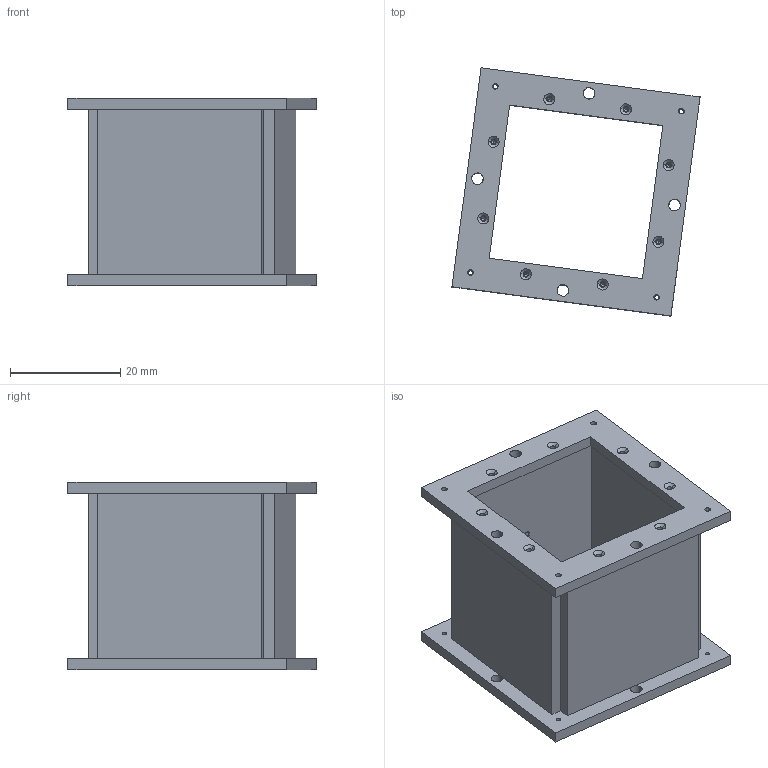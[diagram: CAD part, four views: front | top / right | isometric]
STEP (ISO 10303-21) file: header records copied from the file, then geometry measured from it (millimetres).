
FILE_DESCRIPTION (( 'STEP AP214' ), '1' );
FILE_NAME ('sez assieme cella.STEP', '2016-02-28T08:50:37', ( '' ), ( '' ), 'SwSTEP 2.0', 'SolidWorks 2012', '' );
FILE_SCHEMA (( 'AUTOMOTIVE_DESIGN' ));
Length unit declared in the file: millimetre
Products named in the file (4): sez assieme cella; G_2; G_2_pla; G11
Assembly tree (6 placements, depth 2):
  sez assieme cella
    G11  x4
    G_2_pla
    G_2
Bounding box: 44.93 x 44.93 x 34 mm (x, y, z)
Volume: 10317.9 mm3; surface area: 12901.4 mm2
Topology: 6 solids, 6 shells, 560 faces, 1469 edges, 966 vertices
Faces by surface type: plane 188, bspline 172, cone 104, cylinder 96
Entity records: 14816 total; most frequent: CARTESIAN_POINT 7093, ORIENTED_EDGE 1660, DIRECTION 1358, EDGE_CURVE 830, VERTEX_POINT 540, AXIS2_PLACEMENT_3D 457, VECTOR 444, LINE 444
